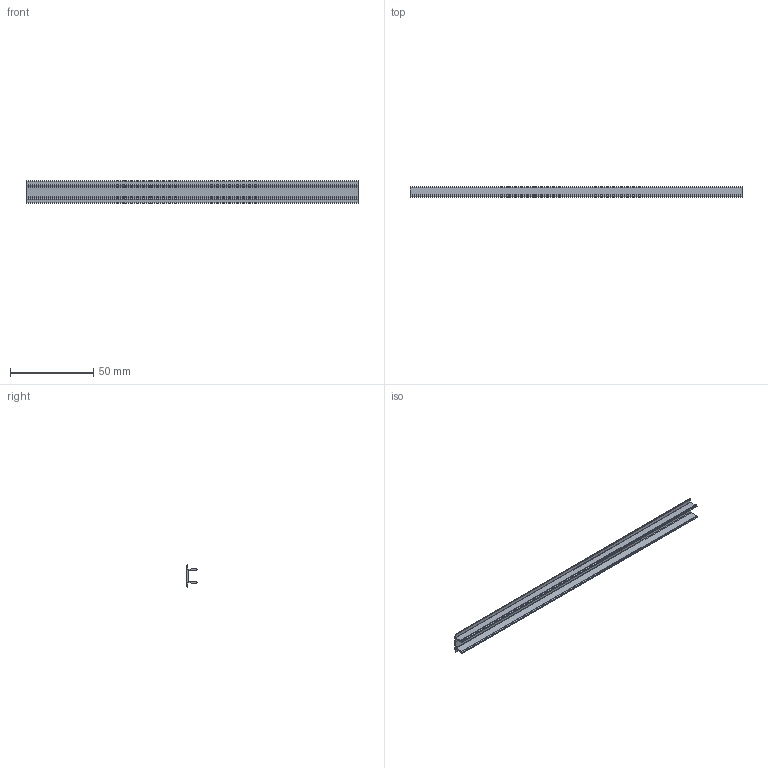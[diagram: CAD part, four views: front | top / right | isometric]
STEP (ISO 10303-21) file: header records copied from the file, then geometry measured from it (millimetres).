
FILE_DESCRIPTION (( 'STEP AP214' ), '1' );
FILE_NAME ('1.6003 Peitelista GL harmaa.STEP', '2024-03-14T08:40:00', ( '' ), ( '' ), 'SwSTEP 2.0', 'SolidWorks 2024', '' );
FILE_SCHEMA (( 'AUTOMOTIVE_DESIGN' ));
Length unit declared in the file: millimetre
Products named in the file (1): 1.6003 Peitelista GL harmaa
Bounding box: 200 x 6.3 x 13.5 mm (x, y, z)
Volume: 4170.7 mm3; surface area: 9904.1 mm2
Topology: 1 solids, 1 shells, 42 faces, 120 edges, 80 vertices
Faces by surface type: cylinder 24, plane 18
Entity records: 1877 total; most frequent: DIRECTION 254, CARTESIAN_POINT 243, ORIENTED_EDGE 240, EDGE_CURVE 120, AXIS2_PLACEMENT_3D 91, VERTEX_POINT 80, LINE 72, VECTOR 72
